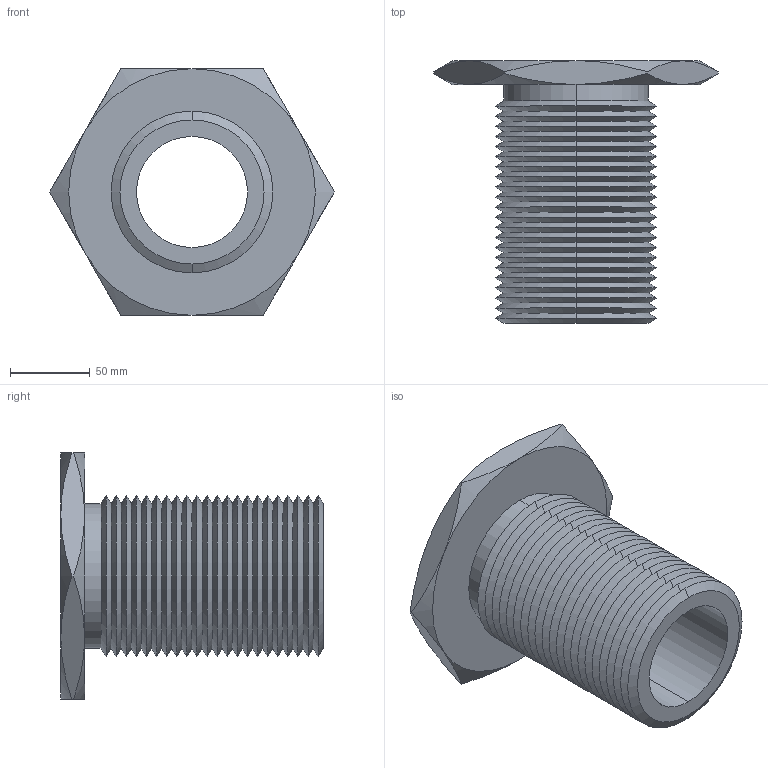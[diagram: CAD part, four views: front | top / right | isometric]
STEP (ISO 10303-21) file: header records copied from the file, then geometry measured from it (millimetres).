
FILE_DESCRIPTION (( 'STEP AP203' ), '1' );
FILE_NAME ('63302.W5400_2,75 UNC-4.step', '2013-12-08T12:04:37', ( 'User' ), ( '' ), 'SwSTEP 2.0', 'SolidWorks 2009', '' );
FILE_SCHEMA (( 'CONFIG_CONTROL_DESIGN' ));
Length unit declared in the file: millimetre
Products named in the file (1): 63302.W5400_2,75 UNC-4
Bounding box: 178.98 x 165 x 155 mm (x, y, z)
Volume: 747856.5 mm3; surface area: 162781.3 mm2
Topology: 1 solids, 1 shells, 115 faces, 234 edges, 122 vertices
Faces by surface type: cone 102, plane 9, cylinder 4
Entity records: 3179 total; most frequent: CARTESIAN_POINT 696, DIRECTION 552, ORIENTED_EDGE 468, EDGE_CURVE 234, AXIS2_PLACEMENT_3D 226, VERTEX_POINT 122, EDGE_LOOP 118, ADVANCED_FACE 115
